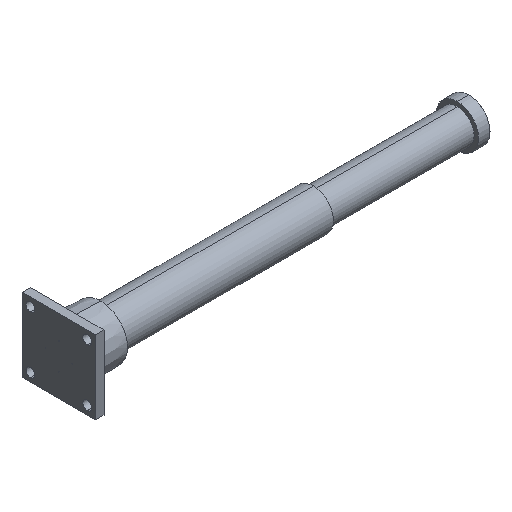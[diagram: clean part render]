
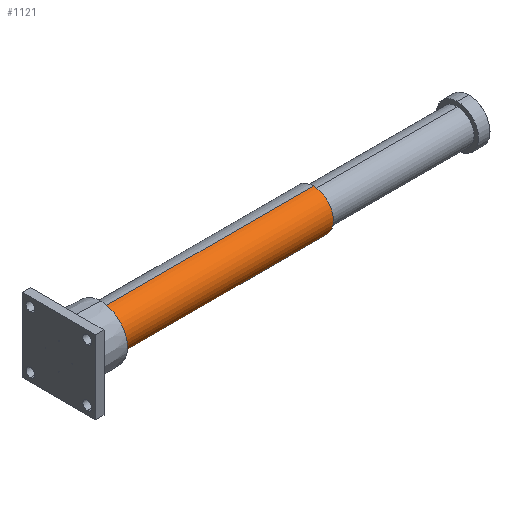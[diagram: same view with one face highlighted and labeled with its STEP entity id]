
A CAD part, isometric view. The second image highlights one B-rep face of the part: STEP entity #1121.
In plain terms, the highlighted cylindrical face has radius 60 mm (diameter 120 mm), a partial arc.
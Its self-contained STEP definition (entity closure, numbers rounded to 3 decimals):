
#30 = AXIS2_PLACEMENT_3D ( 'NONE', #760, #723, #781 ) ;
#86 = ORIENTED_EDGE ( 'NONE', *, *, #581, .F. ) ;
#140 = LINE ( 'NONE', #270, #1081 ) ;
#167 = CARTESIAN_POINT ( 'NONE',  ( 100., 0., -60. ) ) ;
#270 = CARTESIAN_POINT ( 'NONE',  ( 735., 0., 60. ) ) ;
#277 = DIRECTION ( 'NONE',  ( 0., 0., 1. ) ) ;
#278 = DIRECTION ( 'NONE',  ( 0., 0., 1. ) ) ;
#298 = DIRECTION ( 'NONE',  ( -1., 0., 0. ) ) ;
#318 = DIRECTION ( 'NONE',  ( -1., 0., 0. ) ) ;
#386 = VERTEX_POINT ( 'NONE', #167 ) ;
#397 = EDGE_CURVE ( 'NONE', #696, #386, #427, .T. ) ;
#416 = FACE_OUTER_BOUND ( 'NONE', #685, .T. ) ;
#427 = LINE ( 'NONE', #1100, #1158 ) ;
#451 = EDGE_CURVE ( 'NONE', #696, #731, #739, .T. ) ;
#455 = CARTESIAN_POINT ( 'NONE',  ( 735., 0., -60. ) ) ;
#493 = AXIS2_PLACEMENT_3D ( 'NONE', #519, #318, #278 ) ;
#511 = CARTESIAN_POINT ( 'NONE',  ( 735., 0., 60. ) ) ;
#519 = CARTESIAN_POINT ( 'NONE',  ( 735., 0., 0. ) ) ;
#581 = EDGE_CURVE ( 'NONE', #386, #983, #996, .T. ) ;
#586 = ORIENTED_EDGE ( 'NONE', *, *, #663, .T. ) ;
#606 = CARTESIAN_POINT ( 'NONE',  ( 735., 0., 0. ) ) ;
#663 = EDGE_CURVE ( 'NONE', #731, #983, #140, .T. ) ;
#685 = EDGE_LOOP ( 'NONE', ( #997, #1071, #586, #86 ) ) ;
#696 = VERTEX_POINT ( 'NONE', #455 ) ;
#723 = DIRECTION ( 'NONE',  ( -1., 0., 0. ) ) ;
#731 = VERTEX_POINT ( 'NONE', #511 ) ;
#739 = CIRCLE ( 'NONE', #908, 60. ) ;
#760 = CARTESIAN_POINT ( 'NONE',  ( 100., 0., 0. ) ) ;
#781 = DIRECTION ( 'NONE',  ( 0., 0., -1. ) ) ;
#807 = DIRECTION ( 'NONE',  ( -1., 0., 0. ) ) ;
#883 = CARTESIAN_POINT ( 'NONE',  ( 100., 0., 60. ) ) ;
#908 = AXIS2_PLACEMENT_3D ( 'NONE', #606, #807, #277 ) ;
#918 = DIRECTION ( 'NONE',  ( -1., 0., 0. ) ) ;
#983 = VERTEX_POINT ( 'NONE', #883 ) ;
#996 = CIRCLE ( 'NONE', #30, 60. ) ;
#997 = ORIENTED_EDGE ( 'NONE', *, *, #397, .F. ) ;
#1071 = ORIENTED_EDGE ( 'NONE', *, *, #451, .T. ) ;
#1081 = VECTOR ( 'NONE', #298, 1000. ) ;
#1100 = CARTESIAN_POINT ( 'NONE',  ( 735., 0., -60. ) ) ;
#1121 = ADVANCED_FACE ( 'NONE', ( #416 ), #1152, .T. ) ;
#1152 = CYLINDRICAL_SURFACE ( 'NONE', #493, 60. ) ;
#1158 = VECTOR ( 'NONE', #918, 1000. ) ;
